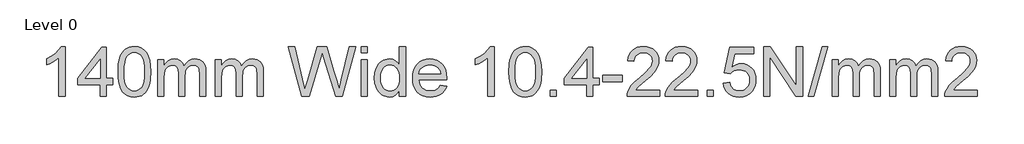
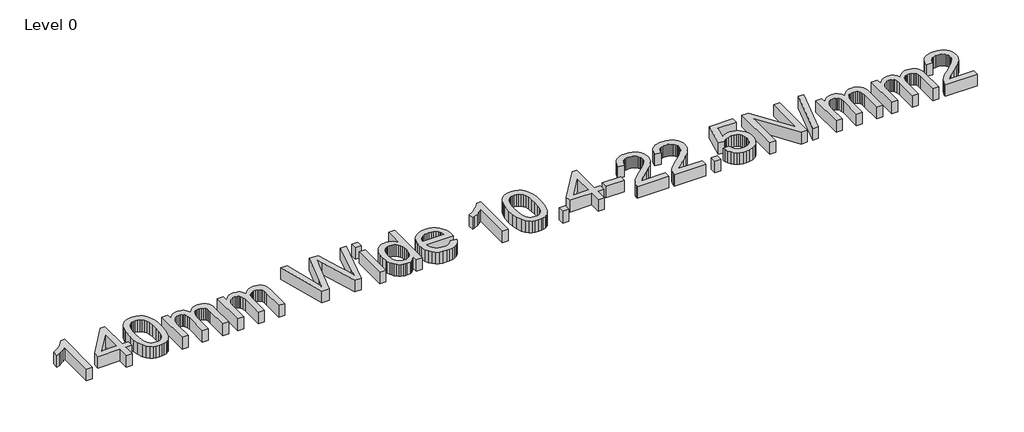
# One storey, part 11 of 14: 1 proxy.
"""IFC4 building model written with IfcOpenShell, lengths in millimetres."""

from ifc_helpers import new_model, si_unit, origin, origin_with_axes, place, context, project, spatial, polyline, outline, extrude, element, save

model = new_model("IFC4")

# Units and contexts
model_context = context("Model", 3, world=origin())
ifc_project = project(units=[si_unit("LENGTHUNIT", "METRE", prefix="MILLI")], contexts=[model_context])

# Site, building, storey
site = spatial("IfcSite", under=ifc_project)
building = spatial("IfcBuilding", under=site)
storey = spatial("IfcBuildingStorey", under=building, Name="Level 0", Elevation=0.0)

# Proxy
placement = place(None, origin())
element("IfcBuildingElementProxy", 1, Name="600mm Arial", ObjectType="600mm Arial", at=placement, inside=storey, context=model_context, shape_type="SweptSolid", body=[
    extrude(outline(polyline([(-13529.5844607, 17063.068453), (-13603.4306145, 17063.068453), (-13603.4306145, 17523.4530684), (-13634.2599414, 17498.5191742), (-13673.3825376, 17473.6213376), (-13714.4522491, 17451.8605203), (-13751.1229222, 17436.3376838), (-13751.1229222, 17506.1453761), (-13693.1241241, 17537.6958568), (-13642.8777299, 17575.2319145), (-13603.2683549, 17615.1477799), (-13577.1806145, 17653.8376838), (-13529.5844607, 17653.8376838), (-13529.5844607, 17063.068453)])), origin_with_axes(), (0.0, 0.0, 1.0), 150.0),
    extrude(outline(polyline([(-13114.1998453, 17063.068453), (-13114.1998453, 17201.5299915), (-13381.892153, 17201.5299915), (-13381.892153, 17275.3761453), (-13095.7383068, 17644.6069145), (-13040.3536914, 17644.6069145), (-13040.3536914, 17275.3761453), (-12966.5075376, 17275.3761453), (-12966.5075376, 17201.5299915), (-13040.3536914, 17201.5299915), (-13040.3536914, 17063.068453), (-13114.1998453, 17063.068453)]), holes=[polyline([(-13114.1998453, 17275.3761453), (-13114.1998453, 17503.5492222), (-13291.0267683, 17275.3761453), (-13114.1998453, 17275.3761453)])]), origin_with_axes(), (0.0, 0.0, 1.0), 150.0),
    extrude(outline(polyline([(-12901.892153, 17353.693453), (-12896.4654703, 17448.2547511), (-12889.6821169, 17488.3554121), (-12880.1854222, 17523.6694145), (-12868.015951, 17554.4852198), (-12853.2142683, 17581.0912895), (-12835.7803741, 17603.4876237), (-12815.7142683, 17621.6742222), (-12792.9483429, 17635.7457367), (-12767.4149895, 17645.7968184), (-12739.1142082, 17651.8274674), (-12708.0459991, 17653.8376838), (-12662.5411914, 17649.0780684), (-12621.7959991, 17634.7992222), (-12587.7214799, 17611.5600395), (-12562.2286914, 17579.9194145), (-12542.9738837, 17540.1477799), (-12527.6133068, 17492.5155684), (-12517.5532107, 17432.0287895), (-12514.1998453, 17353.693453), (-12519.5724414, 17259.6730203), (-12526.2881866, 17219.7075756), (-12535.6902299, 17184.4386453), (-12547.7650496, 17153.6093184), (-12562.4991241, 17126.9626838), (-12579.8924534, 17104.4987415), (-12599.9450376, 17086.2174915), (-12622.7380063, 17072.0513256), (-12648.3524895, 17061.9326357), (-12676.7884871, 17055.8614218), (-12708.0459991, 17053.8376838), (-12748.719076, 17057.3533088), (-12784.7767683, 17067.9001838), (-12816.219076, 17085.4783088), (-12843.0459991, 17110.0876838), (-12868.7911914, 17154.5738617), (-12887.1806145, 17210.0035492), (-12898.2142683, 17276.3767463), (-12901.892153, 17353.693453)]), holes=[polyline([(-12828.0459991, 17353.8376838), (-12825.8825376, 17289.6414698), (-12819.392153, 17237.677828), (-12808.5748453, 17197.9467583), (-12793.4306145, 17170.4482607), (-12775.1133068, 17151.7388256), (-12754.7767683, 17138.3749434), (-12732.4209991, 17130.3566141), (-12708.0459991, 17127.6838376), (-12683.6709991, 17130.3656285), (-12661.3152299, 17138.4110011), (-12640.9786914, 17151.8199554), (-12622.6613837, 17170.5924915), (-12607.517153, 17198.1360612), (-12596.6998453, 17237.8581165), (-12590.2094607, 17289.7586573), (-12588.0459991, 17353.8376838), (-12590.1373453, 17416.334679), (-12596.4113837, 17467.3833568), (-12606.8681145, 17506.9837174), (-12621.5075376, 17535.1357607), (-12639.5183549, 17554.7601597), (-12660.0892683, 17568.7775876), (-12683.220278, 17577.1880443), (-12708.9113837, 17579.9915299), (-12733.1601818, 17577.521578), (-12755.1373453, 17570.1117222), (-12774.8428741, 17557.7619626), (-12792.2767683, 17540.4722992), (-12807.9258068, 17509.8232607), (-12819.1036914, 17468.5011453), (-12825.8104222, 17416.505953), (-12828.0459991, 17353.8376838)])]), origin_with_axes(), (0.0, 0.0, 1.0), 150.0),
    extrude(outline(polyline([(-12431.1229222, 17063.068453), (-12431.1229222, 17496.9146068), (-12357.2767683, 17496.9146068), (-12357.2767683, 17425.5203761), (-12335.0652299, 17458.3148472), (-12306.5075376, 17484.005953), (-12272.5772491, 17500.6105203), (-12234.2479222, 17506.1453761), (-12193.1782107, 17500.5023472), (-12175.6992443, 17493.4485612), (-12160.2575376, 17483.5732607), (-12135.6661914, 17456.4759049), (-12119.5844607, 17420.3280684), (-12092.6673933, 17457.8731405), (-12061.9642683, 17484.6910492), (-12027.4750857, 17500.7817943), (-11989.1998453, 17506.1453761), (-11959.6370448, 17503.9143064), (-11933.689028, 17497.2210972), (-11911.3557948, 17486.0657487), (-11892.6373453, 17470.4482607), (-11877.8401698, 17450.1883448), (-11867.2707587, 17425.1057126), (-11860.9291121, 17395.2003641), (-11858.8152299, 17360.4722992), (-11858.8152299, 17063.068453), (-11932.6613837, 17063.068453), (-11932.6613837, 17328.7415299), (-11934.3741241, 17365.5744626), (-11939.5123453, 17390.4001838), (-11949.1397491, 17407.4013857), (-11964.3200376, 17420.7607607), (-11983.845278, 17429.4146068), (-12006.5075376, 17432.2992222), (-12027.4345207, 17430.4512655), (-12046.5135472, 17424.9073953), (-12063.7446169, 17415.6676117), (-12079.1277299, 17402.7319145), (-12091.7794727, 17385.7216982), (-12100.8164318, 17364.2583568), (-12106.2386073, 17338.3418905), (-12108.0459991, 17307.9722992), (-12108.0459991, 17063.068453), (-12181.892153, 17063.068453), (-12181.892153, 17336.9626838), (-12186.1649895, 17378.7174915), (-12198.9834991, 17408.5011453), (-12208.8948573, 17418.912804), (-12221.5375857, 17426.349703), (-12236.9116842, 17430.8118424), (-12255.017153, 17432.2992222), (-12283.4666722, 17428.3328761), (-12309.6806145, 17416.4338376), (-12331.3152299, 17396.8905684), (-12346.0267683, 17369.9915299), (-12354.4642683, 17332.6718184), (-12357.2767683, 17281.8665299), (-12357.2767683, 17063.068453), (-12431.1229222, 17063.068453)])), origin_with_axes(), (0.0, 0.0, 1.0), 150.0),
    extrude(outline(polyline([(-11748.0459991, 17063.068453), (-11748.0459991, 17496.9146068), (-11674.1998453, 17496.9146068), (-11674.1998453, 17425.5203761), (-11651.9883068, 17458.3148472), (-11623.4306145, 17484.005953), (-11589.500326, 17500.6105203), (-11551.1709991, 17506.1453761), (-11510.1012876, 17500.5023472), (-11492.6223212, 17493.4485612), (-11477.1806145, 17483.5732607), (-11452.5892683, 17456.4759049), (-11436.5075376, 17420.3280684), (-11409.5904703, 17457.8731405), (-11378.8873453, 17484.6910492), (-11344.3981626, 17500.7817943), (-11306.1229222, 17506.1453761), (-11276.5601217, 17503.9143064), (-11250.6121049, 17497.2210972), (-11228.2788717, 17486.0657487), (-11209.5604222, 17470.4482607), (-11194.7632467, 17450.1883448), (-11184.1938357, 17425.1057126), (-11177.852189, 17395.2003641), (-11175.7383068, 17360.4722992), (-11175.7383068, 17063.068453), (-11249.5844607, 17063.068453), (-11249.5844607, 17328.7415299), (-11251.297201, 17365.5744626), (-11256.4354222, 17390.4001838), (-11266.062826, 17407.4013857), (-11281.2431145, 17420.7607607), (-11300.7683549, 17429.4146068), (-11323.4306145, 17432.2992222), (-11344.3575977, 17430.4512655), (-11363.4366241, 17424.9073953), (-11380.6676938, 17415.6676117), (-11396.0508068, 17402.7319145), (-11408.7025496, 17385.7216982), (-11417.7395087, 17364.2583568), (-11423.1616842, 17338.3418905), (-11424.969076, 17307.9722992), (-11424.969076, 17063.068453), (-11498.8152299, 17063.068453), (-11498.8152299, 17336.9626838), (-11503.0880664, 17378.7174915), (-11515.906576, 17408.5011453), (-11525.8179342, 17418.912804), (-11538.4606626, 17426.349703), (-11553.8347611, 17430.8118424), (-11571.9402299, 17432.2992222), (-11600.3897491, 17428.3328761), (-11626.6036914, 17416.4338376), (-11648.2383068, 17396.8905684), (-11662.9498453, 17369.9915299), (-11671.3873453, 17332.6718184), (-11674.1998453, 17281.8665299), (-11674.1998453, 17063.068453), (-11748.0459991, 17063.068453)])), origin_with_axes(), (0.0, 0.0, 1.0), 150.0),
    extrude(outline(polyline([(-10719.2479222, 17063.068453), (-10880.3536914, 17653.8376838), (-10804.1998453, 17653.8376838), (-10710.7383068, 17265.568453), (-10681.892153, 17145.7126838), (-10651.0267683, 17251.7222992), (-10533.9113837, 17653.8376838), (-10424.1517683, 17653.8376838), (-10339.0556145, 17362.3472992), (-10302.6012876, 17254.1742222), (-10275.7383068, 17145.7126838), (-10247.7575376, 17262.1069145), (-10153.4306145, 17653.8376838), (-10077.2767683, 17653.8376838), (-10238.5267683, 17063.068453), (-10317.4209991, 17063.068453), (-10459.0556145, 17518.8376838), (-10478.8152299, 17582.443453), (-10501.0267683, 17505.8569145), (-10630.1133068, 17063.068453), (-10719.2479222, 17063.068453)])), origin_with_axes(), (0.0, 0.0, 1.0), 150.0),
    extrude(outline(polyline([(-10012.6613837, 17063.068453), (-10012.6613837, 17496.9146068), (-9938.8152299, 17496.9146068), (-9938.8152299, 17063.068453), (-10012.6613837, 17063.068453)])), origin_with_axes(), (0.0, 0.0, 1.0), 150.0),
    extrude(outline(polyline([(-10012.6613837, 17579.9915299), (-10012.6613837, 17653.8376838), (-9938.8152299, 17653.8376838), (-9938.8152299, 17579.9915299), (-10012.6613837, 17579.9915299)])), origin_with_axes(), (0.0, 0.0, 1.0), 150.0),
    extrude(outline(polyline([(-9560.3536914, 17063.068453), (-9560.3536914, 17132.7319145), (-9582.4480424, 17098.2156886), (-9609.2118645, 17073.5612415), (-9640.6451578, 17058.7685732), (-9676.7479222, 17053.8376838), (-9701.1229222, 17055.6225395), (-9724.4883068, 17060.9771068), (-9746.844076, 17069.9013857), (-9768.1902299, 17082.3953761), (-9787.859701, 17098.0849794), (-9805.1854222, 17116.5960972), (-9820.1673933, 17137.9287294), (-9832.8056145, 17162.0828761), (-9842.8386674, 17188.5988016), (-9850.0051337, 17217.0167703), (-9855.7383068, 17279.5588376), (-9850.4558549, 17341.3256645), (-9834.6084991, 17397.1069145), (-9822.7274895, 17421.959679), (-9808.2142683, 17443.7295107), (-9791.0688357, 17462.4164097), (-9771.2911914, 17478.0203761), (-9749.5799534, 17490.3250636), (-9726.6337395, 17499.1141261), (-9702.4525496, 17504.3875636), (-9677.0363837, 17506.1453761), (-9640.906576, 17501.115328), (-9608.9594607, 17486.0251838), (-9581.8801337, 17462.8941742), (-9560.3536914, 17433.7415299), (-9560.3536914, 17653.8376838), (-9486.5075376, 17653.8376838), (-9486.5075376, 17063.068453), (-9560.3536914, 17063.068453)]), holes=[polyline([(-9781.892153, 17279.8472992), (-9779.8098212, 17244.0375035), (-9773.562826, 17213.0504242), (-9763.1511674, 17186.8860612), (-9748.5748453, 17165.5444145), (-9731.1679943, 17148.9804121), (-9712.2647491, 17137.1489818), (-9691.8651097, 17130.0501237), (-9669.969076, 17127.6838376), (-9647.9693765, 17129.9419506), (-9627.6914318, 17136.7162895), (-9609.1352419, 17148.0068544), (-9592.3008068, 17163.8136453), (-9578.3239438, 17184.2628641), (-9568.3404703, 17209.4807126), (-9562.3503861, 17239.467191), (-9560.3536914, 17274.2222992), (-9562.3864438, 17312.3262655), (-9568.484701, 17345.0035492), (-9578.6484631, 17372.2541501), (-9592.8777299, 17394.0780684), (-9610.0817563, 17410.7998232), (-9629.1697972, 17422.7439338), (-9650.1418525, 17429.9104001), (-9672.9979222, 17432.2992222), (-9695.3266482, 17430.0050516), (-9715.7262876, 17423.1225395), (-9734.1968405, 17411.6516862), (-9750.7383068, 17395.5924915), (-9764.3681145, 17374.5933929), (-9774.1036914, 17348.302828), (-9779.9450376, 17316.7207968), (-9781.892153, 17279.8472992)])]), origin_with_axes(), (0.0, 0.0, 1.0), 150.0),
    extrude(outline(polyline([(-9071.9883068, 17192.2992222), (-8999.5844607, 17183.068453), (-9010.6857227, 17154.069054), (-9025.672201, 17128.5131645), (-9044.5438957, 17106.4007847), (-9067.3008068, 17087.7319145), (-9093.7085592, 17072.9031886), (-9123.532778, 17062.3112415), (-9156.7734631, 17055.9560732), (-9193.4306145, 17053.8376838), (-9239.250927, 17057.4930323), (-9280.0772491, 17068.459078), (-9315.9095808, 17086.7358208), (-9346.7479222, 17112.3232607), (-9371.5466001, 17144.5092583), (-9389.2599414, 17182.5816742), (-9399.8879462, 17226.5405083), (-9403.4306145, 17276.3857607), (-9399.8518885, 17327.9212174), (-9389.1157107, 17373.3448953), (-9371.2220808, 17412.6567943), (-9346.1709991, 17445.8569145), (-9315.4137876, 17472.2331165), (-9280.4017683, 17491.0732607), (-9241.1349414, 17502.3773472), (-9197.6133068, 17506.1453761), (-9155.493415, 17502.3863617), (-9117.4029703, 17491.1093184), (-9083.3419727, 17472.3142463), (-9053.3104222, 17446.0011453), (-9028.7956986, 17412.8731405), (-9011.2851818, 17373.6333568), (-9000.7788717, 17328.2817943), (-8997.2767683, 17276.818453), (-8997.7094607, 17256.9146068), (-9329.5844607, 17256.9146068), (-9325.3071169, 17227.4464578), (-9316.8020087, 17201.6381645), (-9304.0691361, 17179.489727), (-9287.1084991, 17161.0011453), (-9266.8575977, 17146.4248232), (-9244.2539318, 17136.0131645), (-9219.2975015, 17129.7661693), (-9191.9883068, 17127.6838376), (-9152.6854222, 17131.5420107), (-9119.5844607, 17143.1165299), (-9092.6854222, 17163.1285492), (-9071.9883068, 17192.2992222)]), holes=[polyline([(-9329.5844607, 17330.7607607), (-9071.1229222, 17330.7607607), (-9081.110903, 17369.7751838), (-9089.7016482, 17385.1177318), (-9100.6902299, 17397.6838376), (-9120.828451, 17412.8280684), (-9143.7431145, 17423.6453761), (-9169.4342203, 17430.1357607), (-9197.9017683, 17432.2992222), (-9223.867814, 17430.5729602), (-9247.6794126, 17425.3941742), (-9269.336564, 17416.7628641), (-9288.8392683, 17404.6790299), (-9305.2049534, 17389.701566), (-9317.4510472, 17372.3893665), (-9325.5775496, 17352.7424314), (-9329.5844607, 17330.7607607)])]), origin_with_axes(), (0.0, 0.0, 1.0), 150.0),
    extrude(outline(polyline([(-8434.1998453, 17063.068453), (-8508.0459991, 17063.068453), (-8508.0459991, 17523.4530684), (-8538.875326, 17498.5191742), (-8577.9979222, 17473.6213376), (-8619.0676337, 17451.8605203), (-8655.7383068, 17436.3376838), (-8655.7383068, 17506.1453761), (-8597.7395087, 17537.6958568), (-8547.4931145, 17575.2319145), (-8507.8837395, 17615.1477799), (-8481.7959991, 17653.8376838), (-8434.1998453, 17653.8376838), (-8434.1998453, 17063.068453)])), origin_with_axes(), (0.0, 0.0, 1.0), 150.0),
    extrude(outline(polyline([(-8258.8152299, 17353.693453), (-8253.3885472, 17448.2547511), (-8246.6051938, 17488.3554121), (-8237.1084991, 17523.6694145), (-8224.939028, 17554.4852198), (-8210.1373453, 17581.0912895), (-8192.703451, 17603.4876237), (-8172.6373453, 17621.6742222), (-8149.8714198, 17635.7457367), (-8124.3380664, 17645.7968184), (-8096.0372852, 17651.8274674), (-8064.969076, 17653.8376838), (-8019.4642683, 17649.0780684), (-7978.719076, 17634.7992222), (-7944.6445568, 17611.5600395), (-7919.1517683, 17579.9194145), (-7899.8969607, 17540.1477799), (-7884.5363837, 17492.5155684), (-7874.4762876, 17432.0287895), (-7871.1229222, 17353.693453), (-7876.4955183, 17259.6730203), (-7883.2112635, 17219.7075756), (-7892.6133068, 17184.4386453), (-7904.6881265, 17153.6093184), (-7919.422201, 17126.9626838), (-7936.8155304, 17104.4987415), (-7956.8681145, 17086.2174915), (-7979.6610832, 17072.0513256), (-8005.2755664, 17061.9326357), (-8033.711564, 17055.8614218), (-8064.969076, 17053.8376838), (-8105.642153, 17057.3533088), (-8141.6998453, 17067.9001838), (-8173.142153, 17085.4783088), (-8199.969076, 17110.0876838), (-8225.7142683, 17154.5738617), (-8244.1036914, 17210.0035492), (-8255.1373453, 17276.3767463), (-8258.8152299, 17353.693453)]), holes=[polyline([(-8184.969076, 17353.8376838), (-8182.8056145, 17289.6414698), (-8176.3152299, 17237.677828), (-8165.4979222, 17197.9467583), (-8150.3536914, 17170.4482607), (-8132.0363837, 17151.7388256), (-8111.6998453, 17138.3749434), (-8089.344076, 17130.3566141), (-8064.969076, 17127.6838376), (-8040.594076, 17130.3656285), (-8018.2383068, 17138.4110011), (-7997.9017683, 17151.8199554), (-7979.5844607, 17170.5924915), (-7964.4402299, 17198.1360612), (-7953.6229222, 17237.8581165), (-7947.1325376, 17289.7586573), (-7944.969076, 17353.8376838), (-7947.0604222, 17416.334679), (-7953.3344607, 17467.3833568), (-7963.7911914, 17506.9837174), (-7978.4306145, 17535.1357607), (-7996.4414318, 17554.7601597), (-8017.0123453, 17568.7775876), (-8040.1433549, 17577.1880443), (-8065.8344607, 17579.9915299), (-8090.0832587, 17577.521578), (-8112.0604222, 17570.1117222), (-8131.765951, 17557.7619626), (-8149.1998453, 17540.4722992), (-8164.8488837, 17509.8232607), (-8176.0267683, 17468.5011453), (-8182.7334991, 17416.505953), (-8184.969076, 17353.8376838)])]), origin_with_axes(), (0.0, 0.0, 1.0), 150.0),
    extrude(outline(polyline([(-7769.5844607, 17063.068453), (-7769.5844607, 17136.9146068), (-7695.7383068, 17136.9146068), (-7695.7383068, 17063.068453), (-7769.5844607, 17063.068453)])), origin_with_axes(), (0.0, 0.0, 1.0), 150.0),
    extrude(outline(polyline([(-7335.7383068, 17063.068453), (-7335.7383068, 17201.5299915), (-7603.4306145, 17201.5299915), (-7603.4306145, 17275.3761453), (-7317.2767683, 17644.6069145), (-7261.892153, 17644.6069145), (-7261.892153, 17275.3761453), (-7188.0459991, 17275.3761453), (-7188.0459991, 17201.5299915), (-7261.892153, 17201.5299915), (-7261.892153, 17063.068453), (-7335.7383068, 17063.068453)]), holes=[polyline([(-7335.7383068, 17275.3761453), (-7335.7383068, 17503.5492222), (-7512.5652299, 17275.3761453), (-7335.7383068, 17275.3761453)])]), origin_with_axes(), (0.0, 0.0, 1.0), 150.0),
    extrude(outline(polyline([(-7141.892153, 17238.4530684), (-7141.892153, 17312.2992222), (-6911.1229222, 17312.2992222), (-6911.1229222, 17238.4530684), (-7141.892153, 17238.4530684)])), origin_with_axes(), (0.0, 0.0, 1.0), 150.0),
    extrude(outline(polyline([(-6468.0459991, 17136.9146068), (-6468.0459991, 17063.068453), (-6855.7383068, 17063.068453), (-6854.1157107, 17089.0660492), (-6847.8056145, 17113.9819145), (-6829.5964799, 17153.771578), (-6802.9498453, 17192.3713376), (-6764.4041722, 17232.7739818), (-6710.4979222, 17277.9722992), (-6630.8104222, 17348.7535492), (-6582.9979222, 17401.0011453), (-6569.0526097, 17422.3472992), (-6559.0916722, 17443.4049915), (-6553.1151097, 17464.1742222), (-6551.1229222, 17484.6549915), (-6553.0024294, 17503.9233208), (-6558.640951, 17521.6321549), (-6568.0384871, 17537.7814939), (-6581.1950376, 17552.3713376), (-6597.3804342, 17564.4551718), (-6615.8645087, 17573.0864818), (-6636.6472611, 17578.2652679), (-6659.7286914, 17579.9915299), (-6684.0450977, 17578.3058328), (-6705.7923933, 17573.2487415), (-6724.9705784, 17564.8202559), (-6741.579653, 17553.0203761), (-6755.0156506, 17538.2457367), (-6764.6746049, 17520.8929722), (-6770.5565159, 17500.9620828), (-6772.6613837, 17478.4530684), (-6846.5075376, 17487.6838376), (-6840.1568765, 17525.8058328), (-6828.6048933, 17559.1141261), (-6811.8515881, 17587.6087174), (-6789.8969607, 17611.2896068), (-6763.2458188, 17629.9043905), (-6732.4029703, 17643.2006645), (-6697.368415, 17651.178429), (-6658.142153, 17653.8376838), (-6618.5643284, 17650.880953), (-6583.3404703, 17642.0107607), (-6552.4705784, 17627.2271068), (-6525.954653, 17606.5299915), (-6504.6580784, 17581.4518665), (-6489.4462395, 17553.5251838), (-6480.3191361, 17522.7499434), (-6477.2767683, 17489.1261453), (-6480.5580183, 17453.8076357), (-6490.4017683, 17419.1021068), (-6507.8717203, 17383.8016261), (-6534.031576, 17346.6982607), (-6575.7322972, 17302.4013857), (-6639.8248453, 17245.5203761), (-6724.7767683, 17174.4867222), (-6758.094076, 17136.9146068), (-6468.0459991, 17136.9146068)])), origin_with_axes(), (0.0, 0.0, 1.0), 150.0),
    extrude(outline(polyline([(-6015.7383068, 17136.9146068), (-6015.7383068, 17063.068453), (-6403.4306145, 17063.068453), (-6401.8080183, 17089.0660492), (-6395.4979222, 17113.9819145), (-6377.2887876, 17153.771578), (-6350.642153, 17192.3713376), (-6312.0964799, 17232.7739818), (-6258.1902299, 17277.9722992), (-6178.5027299, 17348.7535492), (-6130.6902299, 17401.0011453), (-6116.7449174, 17422.3472992), (-6106.7839799, 17443.4049915), (-6100.8074174, 17464.1742222), (-6098.8152299, 17484.6549915), (-6100.6947371, 17503.9233208), (-6106.3332587, 17521.6321549), (-6115.7307948, 17537.7814939), (-6128.8873453, 17552.3713376), (-6145.0727419, 17564.4551718), (-6163.5568164, 17573.0864818), (-6184.3395688, 17578.2652679), (-6207.4209991, 17579.9915299), (-6231.7374054, 17578.3058328), (-6253.484701, 17573.2487415), (-6272.6628861, 17564.8202559), (-6289.2719607, 17553.0203761), (-6302.7079582, 17538.2457367), (-6312.3669126, 17520.8929722), (-6318.2488236, 17500.9620828), (-6320.3536914, 17478.4530684), (-6394.1998453, 17487.6838376), (-6387.8491842, 17525.8058328), (-6376.297201, 17559.1141261), (-6359.5438957, 17587.6087174), (-6337.5892683, 17611.2896068), (-6310.9381265, 17629.9043905), (-6280.095278, 17643.2006645), (-6245.0607227, 17651.178429), (-6205.8344607, 17653.8376838), (-6166.2566361, 17650.880953), (-6131.032778, 17642.0107607), (-6100.1628861, 17627.2271068), (-6073.6469607, 17606.5299915), (-6052.3503861, 17581.4518665), (-6037.1385472, 17553.5251838), (-6028.0114438, 17522.7499434), (-6024.969076, 17489.1261453), (-6028.250326, 17453.8076357), (-6038.094076, 17419.1021068), (-6055.564028, 17383.8016261), (-6081.7238837, 17346.6982607), (-6123.4246049, 17302.4013857), (-6187.517153, 17245.5203761), (-6272.469076, 17174.4867222), (-6305.7863837, 17136.9146068), (-6015.7383068, 17136.9146068)])), origin_with_axes(), (0.0, 0.0, 1.0), 150.0),
    extrude(outline(polyline([(-5904.969076, 17063.068453), (-5904.969076, 17136.9146068), (-5831.1229222, 17136.9146068), (-5831.1229222, 17063.068453), (-5904.969076, 17063.068453)])), origin_with_axes(), (0.0, 0.0, 1.0), 150.0),
    extrude(outline(polyline([(-5711.1229222, 17219.9915299), (-5637.2767683, 17229.2222992), (-5631.7599414, 17205.482816), (-5623.719076, 17184.8893665), (-5613.1541722, 17167.4419506), (-5600.0652299, 17153.1405684), (-5584.4792924, 17142.0032487), (-5566.423403, 17134.0480203), (-5545.8975616, 17129.2748833), (-5522.9017683, 17127.6838376), (-5494.7767683, 17129.8968785), (-5469.969076, 17136.5360011), (-5448.4786914, 17147.6012054), (-5430.3056145, 17163.0924915), (-5415.8554943, 17182.2436333), (-5405.5339799, 17204.2884049), (-5399.3410712, 17229.2268064), (-5397.2767683, 17257.0588376), (-5399.2103621, 17283.3629242), (-5405.0111433, 17306.7463376), (-5414.6791121, 17327.209078), (-5428.2142683, 17344.7511453), (-5445.6616842, 17358.8226597), (-5467.0664318, 17368.8737415), (-5492.4285111, 17374.9043905), (-5521.7479222, 17376.9146068), (-5557.5712395, 17373.7054722), (-5586.579653, 17364.0780684), (-5609.7467203, 17349.3304722), (-5628.0459991, 17330.7607607), (-5701.892153, 17339.9915299), (-5637.2767683, 17644.6069145), (-5351.1229222, 17644.6069145), (-5351.1229222, 17570.7607607), (-5577.5652299, 17570.7607607), (-5609.1517683, 17408.068453), (-5583.0910712, 17426.7463376), (-5556.3993645, 17440.0876838), (-5529.0766482, 17448.0924915), (-5501.1229222, 17450.7607607), (-5465.1598813, 17447.4524674), (-5432.126528, 17437.5275876), (-5402.0228621, 17420.9861213), (-5374.8488837, 17397.8280684), (-5352.3533909, 17369.4686934), (-5336.2851818, 17337.3232607), (-5326.6442563, 17301.3917703), (-5323.4306145, 17261.6742222), (-5326.3242443, 17223.4170107), (-5335.0051337, 17187.8280684), (-5349.4732828, 17154.9073953), (-5369.7286914, 17124.6549915), (-5400.4137876, 17093.6724193), (-5436.219076, 17071.5420107), (-5477.1445568, 17058.2637655), (-5523.1902299, 17053.8376838), (-5561.2987034, 17056.6817343), (-5595.720278, 17065.2138857), (-5626.4549534, 17079.4341381), (-5653.5027299, 17099.3424915), (-5676.0072371, 17123.9473593), (-5693.1121049, 17152.2571549), (-5704.8173332, 17184.2718785), (-5711.1229222, 17219.9915299)])), origin_with_axes(), (0.0, 0.0, 1.0), 150.0),
    extrude(outline(polyline([(-5231.1229222, 17063.068453), (-5231.1229222, 17653.8376838), (-5152.0844607, 17653.8376838), (-4843.4306145, 17185.8088376), (-4843.4306145, 17653.8376838), (-4769.5844607, 17653.8376838), (-4769.5844607, 17063.068453), (-4848.6229222, 17063.068453), (-5157.2767683, 17531.2415299), (-5157.2767683, 17063.068453), (-5231.1229222, 17063.068453)])), origin_with_axes(), (0.0, 0.0, 1.0), 150.0),
    extrude(outline(polyline([(-4704.969076, 17063.068453), (-4538.8152299, 17653.8376838), (-4472.1806145, 17653.8376838), (-4638.3344607, 17063.068453), (-4704.969076, 17063.068453)])), origin_with_axes(), (0.0, 0.0, 1.0), 150.0),
    extrude(outline(polyline([(-4418.8152299, 17063.068453), (-4418.8152299, 17496.9146068), (-4344.969076, 17496.9146068), (-4344.969076, 17425.5203761), (-4322.7575376, 17458.3148472), (-4294.1998453, 17484.005953), (-4260.2695568, 17500.6105203), (-4221.9402299, 17506.1453761), (-4180.8705183, 17500.5023472), (-4163.391552, 17493.4485612), (-4147.9498453, 17483.5732607), (-4123.3584991, 17456.4759049), (-4107.2767683, 17420.3280684), (-4080.359701, 17457.8731405), (-4049.656576, 17484.6910492), (-4015.1673933, 17500.7817943), (-3976.892153, 17506.1453761), (-3947.3293525, 17503.9143064), (-3921.3813357, 17497.2210972), (-3899.0481025, 17486.0657487), (-3880.329653, 17470.4482607), (-3865.5324775, 17450.1883448), (-3854.9630664, 17425.1057126), (-3848.6214198, 17395.2003641), (-3846.5075376, 17360.4722992), (-3846.5075376, 17063.068453), (-3920.3536914, 17063.068453), (-3920.3536914, 17328.7415299), (-3922.0664318, 17365.5744626), (-3927.204653, 17390.4001838), (-3936.8320568, 17407.4013857), (-3952.0123453, 17420.7607607), (-3971.5375857, 17429.4146068), (-3994.1998453, 17432.2992222), (-4015.1268284, 17430.4512655), (-4034.2058549, 17424.9073953), (-4051.4369246, 17415.6676117), (-4066.8200376, 17402.7319145), (-4079.4717804, 17385.7216982), (-4088.5087395, 17364.2583568), (-4093.930915, 17338.3418905), (-4095.7383068, 17307.9722992), (-4095.7383068, 17063.068453), (-4169.5844607, 17063.068453), (-4169.5844607, 17336.9626838), (-4173.8572972, 17378.7174915), (-4186.6758068, 17408.5011453), (-4196.587165, 17418.912804), (-4209.2298933, 17426.349703), (-4224.6039919, 17430.8118424), (-4242.7094607, 17432.2992222), (-4271.1589799, 17428.3328761), (-4297.3729222, 17416.4338376), (-4319.0075376, 17396.8905684), (-4333.719076, 17369.9915299), (-4342.156576, 17332.6718184), (-4344.969076, 17281.8665299), (-4344.969076, 17063.068453), (-4418.8152299, 17063.068453)])), origin_with_axes(), (0.0, 0.0, 1.0), 150.0),
    extrude(outline(polyline([(-3735.7383068, 17063.068453), (-3735.7383068, 17496.9146068), (-3661.892153, 17496.9146068), (-3661.892153, 17425.5203761), (-3639.6806145, 17458.3148472), (-3611.1229222, 17484.005953), (-3577.1926337, 17500.6105203), (-3538.8633068, 17506.1453761), (-3497.7935953, 17500.5023472), (-3480.3146289, 17493.4485612), (-3464.8729222, 17483.5732607), (-3440.281576, 17456.4759049), (-3424.1998453, 17420.3280684), (-3397.282778, 17457.8731405), (-3366.579653, 17484.6910492), (-3332.0904703, 17500.7817943), (-3293.8152299, 17506.1453761), (-3264.2524294, 17503.9143064), (-3238.3044126, 17497.2210972), (-3215.9711794, 17486.0657487), (-3197.2527299, 17470.4482607), (-3182.4555544, 17450.1883448), (-3171.8861433, 17425.1057126), (-3165.5444967, 17395.2003641), (-3163.4306145, 17360.4722992), (-3163.4306145, 17063.068453), (-3237.2767683, 17063.068453), (-3237.2767683, 17328.7415299), (-3238.9895087, 17365.5744626), (-3244.1277299, 17390.4001838), (-3253.7551337, 17407.4013857), (-3268.9354222, 17420.7607607), (-3288.4606626, 17429.4146068), (-3311.1229222, 17432.2992222), (-3332.0499054, 17430.4512655), (-3351.1289318, 17424.9073953), (-3368.3600015, 17415.6676117), (-3383.7431145, 17402.7319145), (-3396.3948573, 17385.7216982), (-3405.4318164, 17364.2583568), (-3410.8539919, 17338.3418905), (-3412.6613837, 17307.9722992), (-3412.6613837, 17063.068453), (-3486.5075376, 17063.068453), (-3486.5075376, 17336.9626838), (-3490.7803741, 17378.7174915), (-3503.5988837, 17408.5011453), (-3513.5102419, 17418.912804), (-3526.1529703, 17426.349703), (-3541.5270688, 17430.8118424), (-3559.6325376, 17432.2992222), (-3588.0820568, 17428.3328761), (-3614.2959991, 17416.4338376), (-3635.9306145, 17396.8905684), (-3650.642153, 17369.9915299), (-3659.079653, 17332.6718184), (-3661.892153, 17281.8665299), (-3661.892153, 17063.068453), (-3735.7383068, 17063.068453)])), origin_with_axes(), (0.0, 0.0, 1.0), 150.0),
    extrude(outline(polyline([(-2692.6613837, 17136.9146068), (-2692.6613837, 17063.068453), (-3080.3536914, 17063.068453), (-3078.7310953, 17089.0660492), (-3072.4209991, 17113.9819145), (-3054.2118645, 17153.771578), (-3027.5652299, 17192.3713376), (-2989.0195568, 17232.7739818), (-2935.1133068, 17277.9722992), (-2855.4258068, 17348.7535492), (-2807.6133068, 17401.0011453), (-2793.6679943, 17422.3472992), (-2783.7070568, 17443.4049915), (-2777.7304943, 17464.1742222), (-2775.7383068, 17484.6549915), (-2777.617814, 17503.9233208), (-2783.2563357, 17521.6321549), (-2792.6538717, 17537.7814939), (-2805.8104222, 17552.3713376), (-2821.9958188, 17564.4551718), (-2840.4798933, 17573.0864818), (-2861.2626457, 17578.2652679), (-2884.344076, 17579.9915299), (-2908.6604823, 17578.3058328), (-2930.407778, 17573.2487415), (-2949.5859631, 17564.8202559), (-2966.1950376, 17553.0203761), (-2979.6310352, 17538.2457367), (-2989.2899895, 17520.8929722), (-2995.1719006, 17500.9620828), (-2997.2767683, 17478.4530684), (-3071.1229222, 17487.6838376), (-3064.7722611, 17525.8058328), (-3053.220278, 17559.1141261), (-3036.4669727, 17587.6087174), (-3014.5123453, 17611.2896068), (-2987.8612034, 17629.9043905), (-2957.0183549, 17643.2006645), (-2921.9837996, 17651.178429), (-2882.7575376, 17653.8376838), (-2843.1797131, 17650.880953), (-2807.9558549, 17642.0107607), (-2777.0859631, 17627.2271068), (-2750.5700376, 17606.5299915), (-2729.2734631, 17581.4518665), (-2714.0616241, 17553.5251838), (-2704.9345207, 17522.7499434), (-2701.892153, 17489.1261453), (-2705.173403, 17453.8076357), (-2715.017153, 17419.1021068), (-2732.4871049, 17383.8016261), (-2758.6469607, 17346.6982607), (-2800.3476818, 17302.4013857), (-2864.4402299, 17245.5203761), (-2949.392153, 17174.4867222), (-2982.7094607, 17136.9146068), (-2692.6613837, 17136.9146068)])), origin_with_axes(), (0.0, 0.0, 1.0), 150.0),
])

save(model, "model.ifc")
